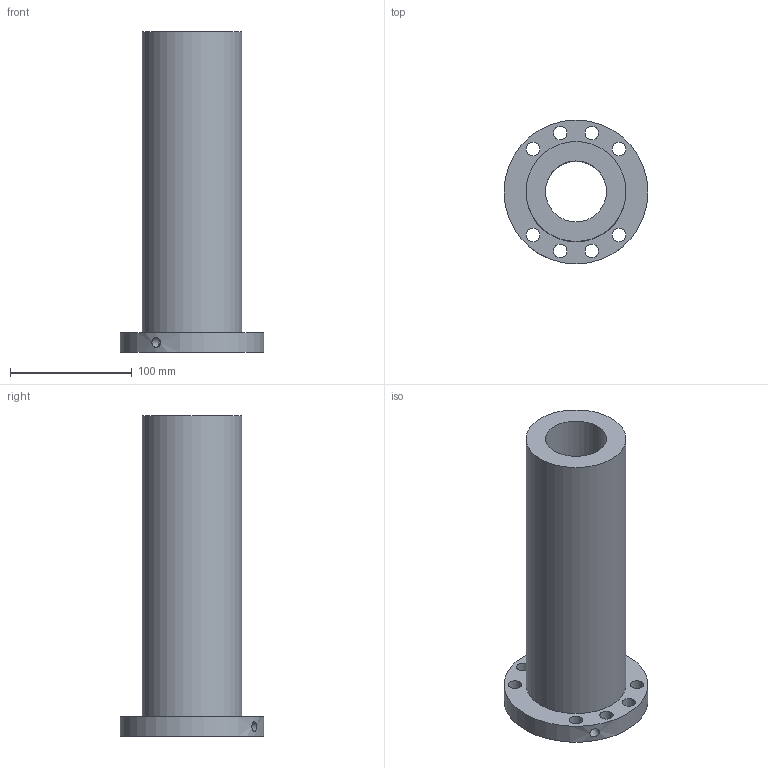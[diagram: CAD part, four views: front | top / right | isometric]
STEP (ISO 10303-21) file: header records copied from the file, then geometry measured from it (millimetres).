
FILE_DESCRIPTION(/* description */ (''),/* implementation_level */ '2;1');
FILE_NAME(/* name */ '50-25K4_635',/* time_stamp */ '2007-10-15T12:53:54+08:00',/* author */ (''),/* organization */ (''),/* preprocessor_version */ 'ST-DEVELOPER v11',/* originating_system */ 'UGS - NX 5.0',/* authorisation */ '');
FILE_SCHEMA (('CONFIG_CONTROL_DESIGN'));
Length unit declared in the file: millimetre
Products named in the file (1): 50-25K4_635
Bounding box: 118 x 118 x 263 mm (x, y, z)
Volume: 949641.7 mm3; surface area: 132367.8 mm2
Topology: 1 solids, 1 shells, 17 faces, 40 edges, 27 vertices
Faces by surface type: cylinder 13, plane 4
Full cylindrical faces by diameter (mm): 6 x1, 8 x1, 11 x8, 50 x1, 82 x1, 118 x1
Entity records: 668 total; most frequent: CARTESIAN_POINT 184, DIRECTION 84, FACE_BOUND 52, EDGE_LOOP 52, ORIENTED_EDGE 52, AXIS2_PLACEMENT_3D 42, VERTEX_POINT 26, EDGE_CURVE 26
